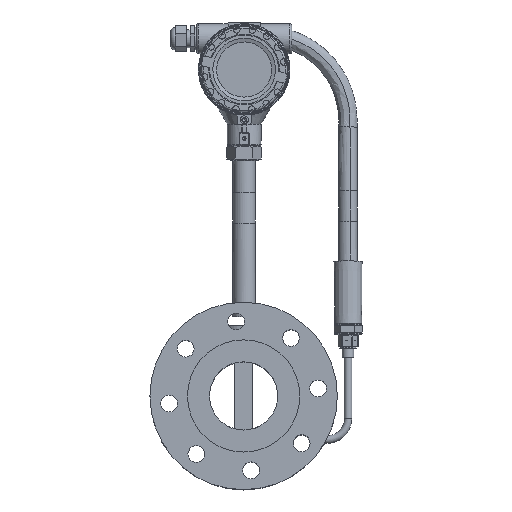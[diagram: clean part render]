
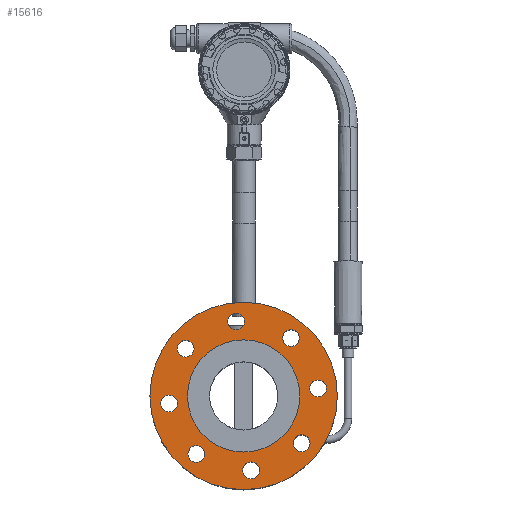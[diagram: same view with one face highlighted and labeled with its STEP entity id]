
A CAD part, top view. The second image highlights one B-rep face of the part: STEP entity #15616.
In plain terms, the highlighted planar face has unit normal (0, 0, 1).
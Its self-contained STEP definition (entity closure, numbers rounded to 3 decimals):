
#628=FACE_BOUND('',#5565,.T.);
#629=FACE_BOUND('',#5566,.T.);
#630=FACE_BOUND('',#5567,.T.);
#631=FACE_BOUND('',#5568,.T.);
#632=FACE_BOUND('',#5569,.T.);
#633=FACE_BOUND('',#5570,.T.);
#634=FACE_BOUND('',#5571,.T.);
#635=FACE_BOUND('',#5572,.T.);
#636=FACE_BOUND('',#5573,.T.);
#1153=PLANE('',#17389);
#4563=FACE_OUTER_BOUND('',#5564,.T.);
#5564=EDGE_LOOP('',(#14159));
#5565=EDGE_LOOP('',(#14160));
#5566=EDGE_LOOP('',(#14161));
#5567=EDGE_LOOP('',(#14162));
#5568=EDGE_LOOP('',(#14163));
#5569=EDGE_LOOP('',(#14164));
#5570=EDGE_LOOP('',(#14165));
#5571=EDGE_LOOP('',(#14166));
#5572=EDGE_LOOP('',(#14167));
#5573=EDGE_LOOP('',(#14168));
#6345=CIRCLE('',#17351,9.);
#6347=CIRCLE('',#17354,9.);
#6349=CIRCLE('',#17357,9.);
#6351=CIRCLE('',#17360,9.);
#6353=CIRCLE('',#17363,9.);
#6355=CIRCLE('',#17366,9.);
#6357=CIRCLE('',#17369,9.);
#6359=CIRCLE('',#17372,9.);
#6365=CIRCLE('',#17381,60.);
#6367=CIRCLE('',#17386,100.164);
#7706=VERTEX_POINT('',#30282);
#7708=VERTEX_POINT('',#30288);
#7710=VERTEX_POINT('',#30294);
#7712=VERTEX_POINT('',#30300);
#7714=VERTEX_POINT('',#30306);
#7716=VERTEX_POINT('',#30312);
#7718=VERTEX_POINT('',#30318);
#7720=VERTEX_POINT('',#30324);
#7726=VERTEX_POINT('',#30341);
#7728=VERTEX_POINT('',#30350);
#9872=EDGE_CURVE('',#7706,#7706,#6345,.T.);
#9875=EDGE_CURVE('',#7708,#7708,#6347,.T.);
#9878=EDGE_CURVE('',#7710,#7710,#6349,.T.);
#9881=EDGE_CURVE('',#7712,#7712,#6351,.T.);
#9884=EDGE_CURVE('',#7714,#7714,#6353,.T.);
#9887=EDGE_CURVE('',#7716,#7716,#6355,.T.);
#9890=EDGE_CURVE('',#7718,#7718,#6357,.T.);
#9893=EDGE_CURVE('',#7720,#7720,#6359,.T.);
#9902=EDGE_CURVE('',#7726,#7726,#6365,.T.);
#9905=EDGE_CURVE('',#7728,#7728,#6367,.T.);
#14159=ORIENTED_EDGE('',*,*,#9905,.T.);
#14160=ORIENTED_EDGE('',*,*,#9872,.T.);
#14161=ORIENTED_EDGE('',*,*,#9875,.T.);
#14162=ORIENTED_EDGE('',*,*,#9878,.T.);
#14163=ORIENTED_EDGE('',*,*,#9881,.T.);
#14164=ORIENTED_EDGE('',*,*,#9884,.T.);
#14165=ORIENTED_EDGE('',*,*,#9887,.T.);
#14166=ORIENTED_EDGE('',*,*,#9890,.T.);
#14167=ORIENTED_EDGE('',*,*,#9893,.T.);
#14168=ORIENTED_EDGE('',*,*,#9902,.T.);
#15616=ADVANCED_FACE('',(#4563,#628,#629,#630,#631,#632,#633,#634,#635,
#636),#1153,.F.);
#17351=AXIS2_PLACEMENT_3D('',#30283,#21795,#21796);
#17354=AXIS2_PLACEMENT_3D('',#30289,#21802,#21803);
#17357=AXIS2_PLACEMENT_3D('',#30295,#21809,#21810);
#17360=AXIS2_PLACEMENT_3D('',#30301,#21816,#21817);
#17363=AXIS2_PLACEMENT_3D('',#30307,#21823,#21824);
#17366=AXIS2_PLACEMENT_3D('',#30313,#21830,#21831);
#17369=AXIS2_PLACEMENT_3D('',#30319,#21837,#21838);
#17372=AXIS2_PLACEMENT_3D('',#30325,#21844,#21845);
#17381=AXIS2_PLACEMENT_3D('',#30343,#21865,#21866);
#17386=AXIS2_PLACEMENT_3D('',#30351,#21876,#21877);
#17389=AXIS2_PLACEMENT_3D('',#30356,#21883,#21884);
#21795=DIRECTION('center_axis',(0.,0.,
-1.));
#21796=DIRECTION('ref_axis',(1.,0.,0.));
#21802=DIRECTION('center_axis',(0.,0.,
-1.));
#21803=DIRECTION('ref_axis',(1.,0.,0.));
#21809=DIRECTION('center_axis',(0.,0.,
-1.));
#21810=DIRECTION('ref_axis',(1.,0.,0.));
#21816=DIRECTION('center_axis',(0.,0.,
-1.));
#21817=DIRECTION('ref_axis',(1.,0.,0.));
#21823=DIRECTION('center_axis',(0.,0.,
-1.));
#21824=DIRECTION('ref_axis',(1.,0.,0.));
#21830=DIRECTION('center_axis',(0.,0.,
-1.));
#21831=DIRECTION('ref_axis',(1.,0.,0.));
#21837=DIRECTION('center_axis',(0.,0.,
-1.));
#21838=DIRECTION('ref_axis',(1.,0.,0.));
#21844=DIRECTION('center_axis',(0.,0.,
-1.));
#21845=DIRECTION('ref_axis',(1.,0.,0.));
#21865=DIRECTION('center_axis',(0.,0.,
-1.));
#21866=DIRECTION('ref_axis',(1.,0.,0.));
#21876=DIRECTION('center_axis',(0.,0.,
1.));
#21877=DIRECTION('ref_axis',(-1.,0.,0.));
#21883=DIRECTION('center_axis',(0.,0.,
-1.));
#21884=DIRECTION('ref_axis',(-1.,0.,0.));
#30282=CARTESIAN_POINT('',(-446.592,234.021,238.144));
#30283=CARTESIAN_POINT('Origin',(-437.592,234.021,238.144));
#30288=CARTESIAN_POINT('',(-322.649,132.838,238.139));
#30289=CARTESIAN_POINT('Origin',(-313.649,132.838,238.139));
#30294=CARTESIAN_POINT('',(-376.574,103.836,238.138));
#30295=CARTESIAN_POINT('Origin',(-367.574,103.836,238.138));
#30300=CARTESIAN_POINT('',(-392.667,263.024,238.145));
#30301=CARTESIAN_POINT('Origin',(-383.667,263.024,238.145));
#30306=CARTESIAN_POINT('',(-464.215,175.383,238.141));
#30307=CARTESIAN_POINT('Origin',(-455.215,175.383,238.141));
#30312=CARTESIAN_POINT('',(-334.029,245.401,238.145));
#30313=CARTESIAN_POINT('Origin',(-325.029,245.401,238.145));
#30318=CARTESIAN_POINT('',(-435.212,121.458,238.139));
#30319=CARTESIAN_POINT('Origin',(-426.212,121.458,238.139));
#30324=CARTESIAN_POINT('',(-305.026,191.477,238.142));
#30325=CARTESIAN_POINT('Origin',(-296.026,191.477,238.142));
#30341=CARTESIAN_POINT('',(-435.62,183.43,238.142));
#30343=CARTESIAN_POINT('Origin',(-375.62,183.43,238.142));
#30350=CARTESIAN_POINT('',(-275.457,183.43,238.142));
#30351=CARTESIAN_POINT('Origin',(-375.62,183.43,238.142));
#30356=CARTESIAN_POINT('Origin',(-375.62,183.43,238.142));
